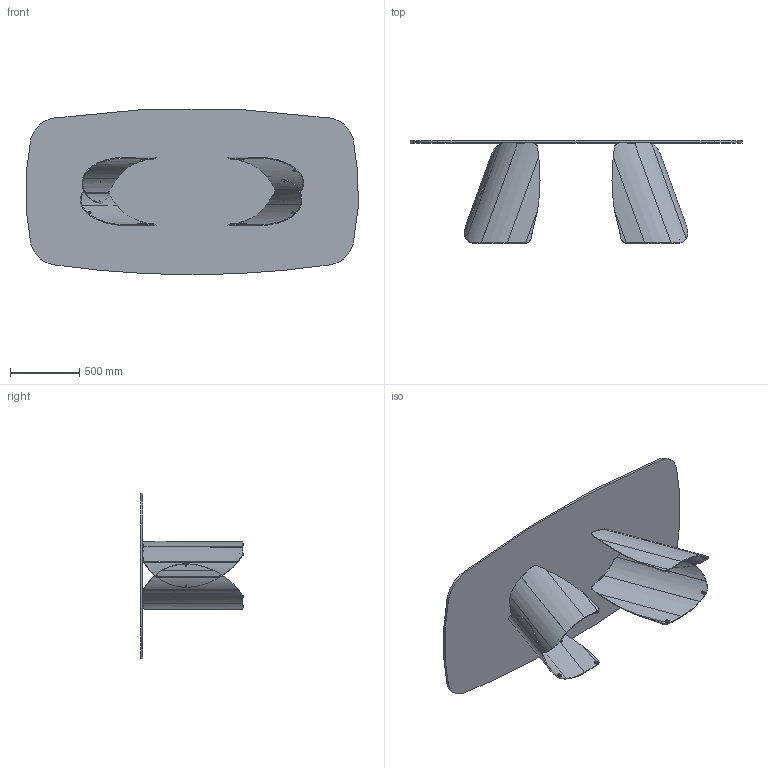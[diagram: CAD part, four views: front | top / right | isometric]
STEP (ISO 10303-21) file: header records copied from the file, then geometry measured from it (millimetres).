
FILE_DESCRIPTION (( 'STEP AP203' ), '1' );
FILE_NAME ('PA43G_Perla 240x120_Glass Rectangular.STEP', '2024-07-31T12:44:12', ( '' ), ( '' ), 'SwSTEP 2.0', 'SolidWorks 2022', '' );
FILE_SCHEMA (( 'CONFIG_CONTROL_DESIGN' ));
Length unit declared in the file: millimetre
Products named in the file (9): C4XCRXX-00-Piani Sagomati in Cristallo_2400 x 1200; PER000000-00-PERLA BASE GREZZA; profilo U 9x7 bombato_L = 60mm; PER000000_03-00-PERLA BUSSOLA PER PIEDE; COLLO BASE PERLA PER000000 CON FERRAMENTA; PIEDINO D.15 x H.8_filetto M6x11; PER000000_02-00-PERLA LAMIERA INTERNA; PA43G_Perla 240x120_Glass Rectangular; PER000000_01-00-PERLA LAMIERA ESTERNA
Assembly tree (16 placements, depth 4):
  PA43G_Perla 240x120_Glass Rectangular
    COLLO BASE PERLA PER000000 CON FERRAMENTA  x2
      PER000000-00-PERLA BASE GREZZA
        PER000000_01-00-PERLA LAMIERA ESTERNA
        PER000000_02-00-PERLA LAMIERA INTERNA
        PER000000_03-00-PERLA BUSSOLA PER PIEDE  x4
      PIEDINO D.15 x H.8_filetto M6x11
      profilo U 9x7 bombato_L = 60mm
    C4XCRXX-00-Piani Sagomati in Cristallo_2400 x 1200
Bounding box: 2391.62 x 736.5 x 1192.03 mm (x, y, z)
Volume: 49791926.8 mm3; surface area: 8803147.7 mm2
Topology: 33 solids, 33 shells, 477 faces, 1057 edges, 646 vertices
Faces by surface type: cylinder 165, bspline 130, plane 102, cone 48, torus 32
Entity records: 12289 total; most frequent: CARTESIAN_POINT 8177, ORIENTED_EDGE 708, DIRECTION 453, EDGE_CURVE 354, VERTEX_POINT 219, AXIS2_PLACEMENT_3D 173, EDGE_LOOP 161, B_SPLINE_CURVE_WITH_KNOTS 153
